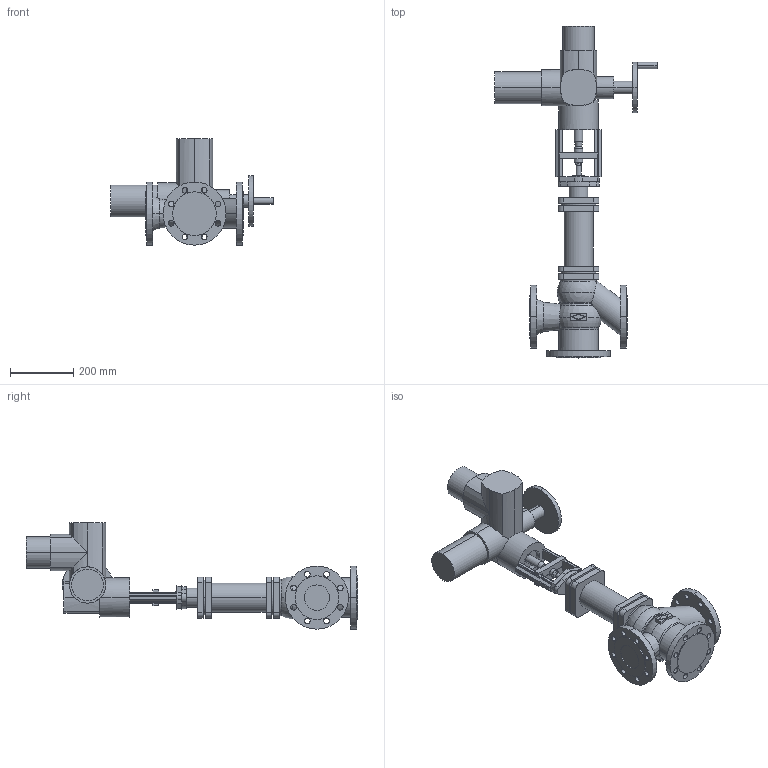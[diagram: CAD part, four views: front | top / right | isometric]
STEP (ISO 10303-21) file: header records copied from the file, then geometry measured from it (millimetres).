
FILE_DESCRIPTION(('OneSpaceDesigner STEP Export'),'2;1');
FILE_NAME('c000003196.stp','2007-01-25T11:50:48',(''),(''),'OneSpace Designer STEP processor for AP214 (Solid Model)','OneSpace Designer 14.00B 27-May-2006 (C) CoCreate Software GmbH','');
FILE_SCHEMA(('AUTOMOTIVE_DESIGN { 1 0 10303 214 1 1 1 1 }'));
Length unit declared in the file: millimetre
Products named in the file (2): 1; 2
Bounding box: 514 x 1051.7 x 337 mm (x, y, z)
Volume: 17171491.5 mm3; surface area: 972814.7 mm2
Topology: 2 solids, 2 shells, 357 faces, 932 edges, 598 vertices
Faces by surface type: cylinder 184, plane 151, torus 10, cone 8, sphere 4
Entity records: 10483 total; most frequent: CARTESIAN_POINT 2250, ORIENTED_EDGE 1856, DIRECTION 1528, EDGE_CURVE 928, VERTEX_POINT 598, AXIS2_PLACEMENT_3D 525, VECTOR 478, LINE 478
